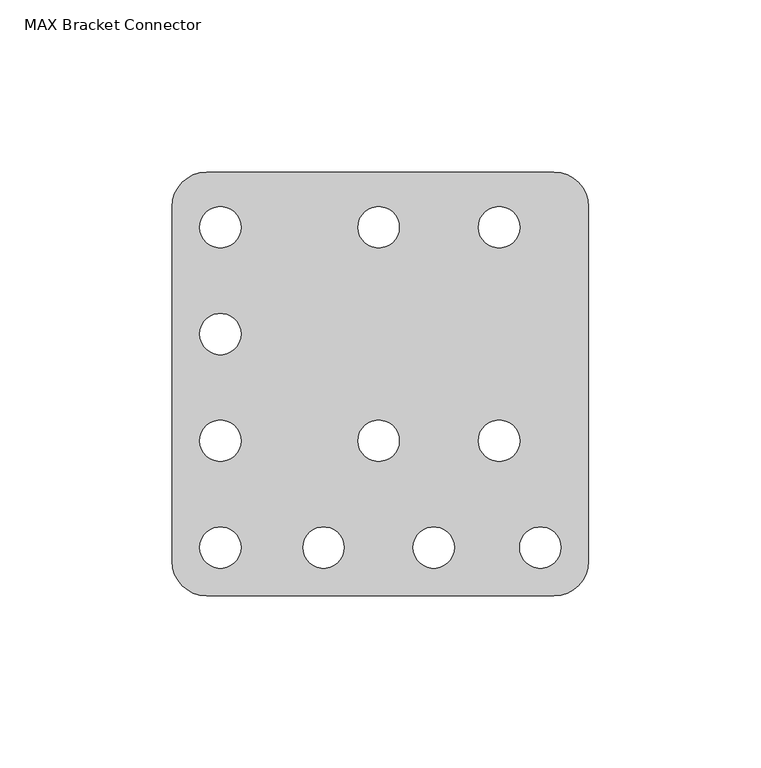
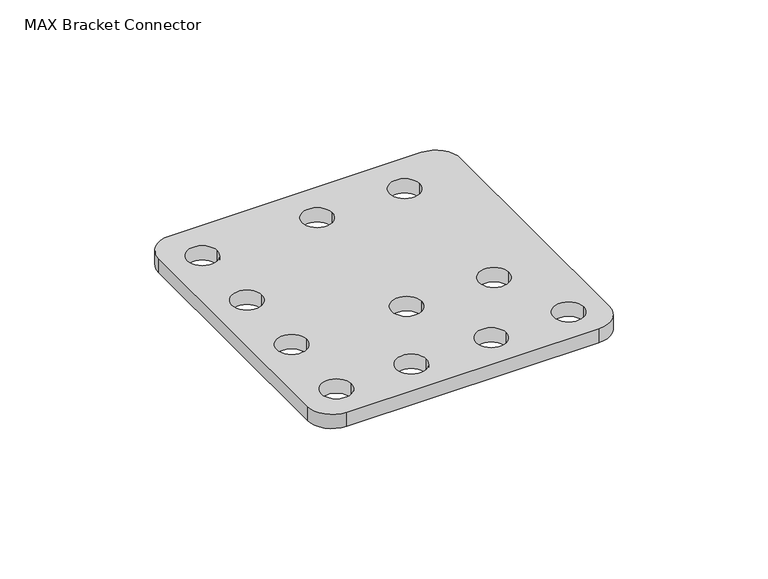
"""IFC4 building model written with IfcOpenShell, lengths in millimetres: proxy geometry, d&b M-Series MAX Bracket Connector : MAX Bracket Connector."""

from ifc_helpers import new_model, si_unit, point, frame, frame_2d, origin, place, context, project, spatial, polyline, circle_curve, trimmed, segment, composite_curve, outline, extrude, source, transform, mapped, element, save


def max_bracket_connector_f8e35c88(model_context):
    return source(origin(), model_context, "Body", "SweptSolid", [
        extrude(outline(composite_curve([segment(trimmed(circle_curve(frame_2d((-23.6633527, 51.5)), 10.0), [point((-23.6633527, 61.5))], [point((-13.6633527, 51.5))], False, "CARTESIAN"), True, "CONTINUOUS"), segment(polyline([(-13.6633527, 51.5), (-13.6633527, -51.5)]), True, "CONTINUOUS"), segment(trimmed(circle_curve(frame_2d((-23.6633527, -51.5)), 10.0), [point((-13.6633527, -51.5))], [point((-23.6633527, -61.5))], False, "CARTESIAN"), True, "CONTINUOUS"), segment(polyline([(-23.6633527, -61.5), (-124.6633527, -61.5)]), True, "CONTINUOUS"), segment(trimmed(circle_curve(frame_2d((-124.6633527, -51.5)), 10.0), [point((-124.6633527, -61.5))], [point((-134.6633527, -51.5))], False, "CARTESIAN"), True, "CONTINUOUS"), segment(polyline([(-134.6633527, -51.5), (-134.6633527, 51.5)]), True, "CONTINUOUS"), segment(trimmed(circle_curve(frame_2d((-124.6633527, 51.5)), 10.0), [point((-134.6633527, 51.5))], [point((-124.6633527, 61.5))], False, "CARTESIAN"), True, "CONTINUOUS"), segment(polyline([(-124.6633527, 61.5), (-23.6633527, 61.5)]), True, "CONTINUOUS")], self_intersect=False), holes=[composite_curve([segment(trimmed(circle_curve(frame_2d((-120.6633527, 45.5)), 6.0), [point((-126.6633527, 45.5))], [point((-114.6633527, 45.5))], True, "CARTESIAN"), True, "CONTINUOUS"), segment(trimmed(circle_curve(frame_2d((-120.6633527, 45.5)), 6.0), [point((-114.6633527, 45.5))], [point((-126.6633527, 45.5))], True, "CARTESIAN"), True, "CONTINUOUS")], self_intersect=False), composite_curve([segment(trimmed(circle_curve(frame_2d((-74.6633527, 45.5)), 6.0), [point((-80.6633527, 45.5))], [point((-68.6633527, 45.5))], True, "CARTESIAN"), True, "CONTINUOUS"), segment(trimmed(circle_curve(frame_2d((-74.6633527, 45.5)), 6.0), [point((-68.6633527, 45.5))], [point((-80.6633527, 45.5))], True, "CARTESIAN"), True, "CONTINUOUS")], self_intersect=False), composite_curve([segment(trimmed(circle_curve(frame_2d((-39.6633527, 45.5)), 6.0), [point((-45.6633527, 45.5))], [point((-33.6633527, 45.5))], True, "CARTESIAN"), True, "CONTINUOUS"), segment(trimmed(circle_curve(frame_2d((-39.6633527, 45.5)), 6.0), [point((-33.6633527, 45.5))], [point((-45.6633527, 45.5))], True, "CARTESIAN"), True, "CONTINUOUS")], self_intersect=False), composite_curve([segment(trimmed(circle_curve(frame_2d((-120.6633527, -16.5)), 6.0), [point((-126.6633527, -16.5))], [point((-114.6633527, -16.5))], True, "CARTESIAN"), True, "CONTINUOUS"), segment(trimmed(circle_curve(frame_2d((-120.6633527, -16.5)), 6.0), [point((-114.6633527, -16.5))], [point((-126.6633527, -16.5))], True, "CARTESIAN"), True, "CONTINUOUS")], self_intersect=False), composite_curve([segment(trimmed(circle_curve(frame_2d((-120.6633527, 14.5)), 6.0), [point((-126.6633527, 14.5))], [point((-114.6633527, 14.5))], True, "CARTESIAN"), True, "CONTINUOUS"), segment(trimmed(circle_curve(frame_2d((-120.6633527, 14.5)), 6.0), [point((-114.6633527, 14.5))], [point((-126.6633527, 14.5))], True, "CARTESIAN"), True, "CONTINUOUS")], self_intersect=False), composite_curve([segment(trimmed(circle_curve(frame_2d((-120.6633527, -47.5)), 6.0), [point((-126.6633527, -47.5))], [point((-114.6633527, -47.5))], True, "CARTESIAN"), True, "CONTINUOUS"), segment(trimmed(circle_curve(frame_2d((-120.6633527, -47.5)), 6.0), [point((-114.6633527, -47.5))], [point((-126.6633527, -47.5))], True, "CARTESIAN"), True, "CONTINUOUS")], self_intersect=False), composite_curve([segment(trimmed(circle_curve(frame_2d((-74.6633527, -16.5)), 6.0), [point((-80.6633527, -16.5))], [point((-68.6633527, -16.5))], True, "CARTESIAN"), True, "CONTINUOUS"), segment(trimmed(circle_curve(frame_2d((-74.6633527, -16.5)), 6.0), [point((-68.6633527, -16.5))], [point((-80.6633527, -16.5))], True, "CARTESIAN"), True, "CONTINUOUS")], self_intersect=False), composite_curve([segment(trimmed(circle_curve(frame_2d((-39.6633527, -16.5)), 6.0), [point((-45.6633527, -16.5))], [point((-33.6633527, -16.5))], True, "CARTESIAN"), True, "CONTINUOUS"), segment(trimmed(circle_curve(frame_2d((-39.6633527, -16.5)), 6.0), [point((-33.6633527, -16.5))], [point((-45.6633527, -16.5))], True, "CARTESIAN"), True, "CONTINUOUS")], self_intersect=False), composite_curve([segment(trimmed(circle_curve(frame_2d((-90.6633527, -47.5)), 6.0), [point((-96.6633527, -47.5))], [point((-84.6633527, -47.5))], True, "CARTESIAN"), True, "CONTINUOUS"), segment(trimmed(circle_curve(frame_2d((-90.6633527, -47.5)), 6.0), [point((-84.6633527, -47.5))], [point((-96.6633527, -47.5))], True, "CARTESIAN"), True, "CONTINUOUS")], self_intersect=False), composite_curve([segment(trimmed(circle_curve(frame_2d((-58.6633527, -47.5)), 6.0), [point((-64.6633527, -47.5))], [point((-52.6633527, -47.5))], True, "CARTESIAN"), True, "CONTINUOUS"), segment(trimmed(circle_curve(frame_2d((-58.6633527, -47.5)), 6.0), [point((-52.6633527, -47.5))], [point((-64.6633527, -47.5))], True, "CARTESIAN"), True, "CONTINUOUS")], self_intersect=False), composite_curve([segment(trimmed(circle_curve(frame_2d((-27.6633527, -47.5)), 6.0), [point((-33.6633527, -47.5))], [point((-21.6633527, -47.5))], True, "CARTESIAN"), True, "CONTINUOUS"), segment(trimmed(circle_curve(frame_2d((-27.6633527, -47.5)), 6.0), [point((-21.6633527, -47.5))], [point((-33.6633527, -47.5))], True, "CARTESIAN"), True, "CONTINUOUS")], self_intersect=False)]), frame((0.0, 0.0, -3.0), z_axis=(0.0, 0.0, 1.0), x_axis=(1.0, 0.0, 0.0)), (0.0, 0.0, 1.0), 6.0),
    ])


if __name__ == "__main__":
    model = new_model("IFC4")
    model_context = context("Model", 3, world=origin())
    ifc_project = project(units=[si_unit("LENGTHUNIT", "METRE", prefix="MILLI")], contexts=[model_context])
    site = spatial("IfcSite", under=ifc_project)
    building = spatial("IfcBuilding", under=site)
    placement = place(None, origin())
    max_bracket_connector_shape = max_bracket_connector_f8e35c88(model_context)
    element("IfcBuildingElementProxy", 1, Name="d&b M-Series MAX Bracket Connector : MAX Bracket Connector", ObjectType="d&b M-Series MAX Bracket Connector : MAX Bracket Connector", at=placement, inside=building, context=model_context, shape_type="MappedRepresentation", body=[
        mapped(max_bracket_connector_shape, transform((0.0, 0.0, 0.0), x_axis=(1.0, 0.0, 0.0), y_axis=(0.0, 1.0, 0.0), z_axis=(0.0, 0.0, 1.0))),
    ])
    save(model, "model.ifc")
